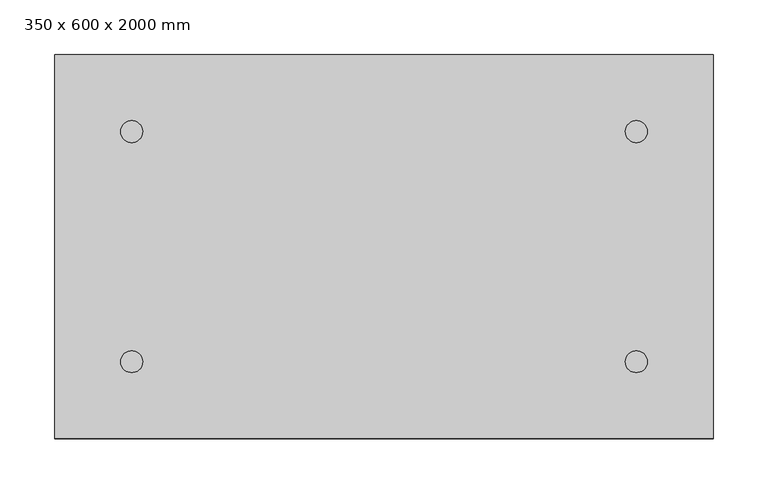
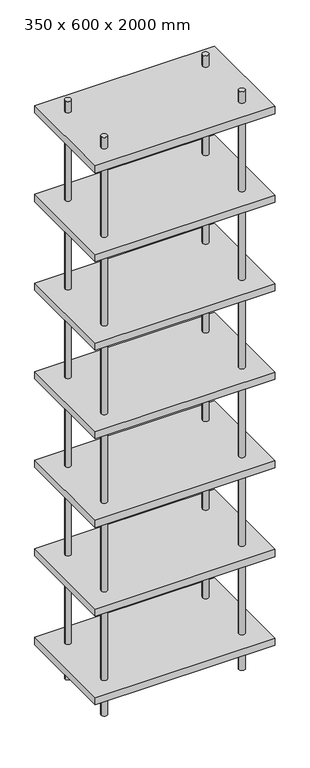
"""IFC4 building model written with IfcOpenShell, lengths in millimetres: furniture geometry, Biblioteca con Montantes : 350 x 600 x 2000 mm."""

from ifc_helpers import new_model, si_unit, point, frame, frame_2d, origin, origin_with_axes, place, context, project, spatial, polyline, circle_curve, trimmed, segment, composite_curve, outline, extrude, source, transform, mapped, element, save


def furniture_350_x_600_x_2000_mm_2159984b(model_context):
    return source(origin(), model_context, "Body", "SweptSolid", [
        extrude(outline(polyline([(-300.0, 0.0), (-300.0, 350.0), (300.0, 350.0), (300.0, 0.0), (-300.0, 0.0)])), frame((0.0, 0.0, 1662.5), z_axis=(0.0, 0.0, 1.0), x_axis=(1.0, 0.0, 0.0)), (0.0, 0.0, 1.0), 25.0),
        extrude(outline(polyline([(-300.0, 0.0), (-300.0, 350.0), (300.0, 350.0), (300.0, 0.0), (-300.0, 0.0)])), frame((0.0, 0.0, 1350.0), z_axis=(0.0, 0.0, 1.0), x_axis=(1.0, 0.0, 0.0)), (0.0, 0.0, 1.0), 25.0),
        extrude(outline(composite_curve([segment(trimmed(circle_curve(frame_2d((230.0, 70.0)), 10.0), [point((220.0, 70.0))], [point((240.0, 70.0))], False, "CARTESIAN"), True, "CONTINUOUS"), segment(trimmed(circle_curve(frame_2d((230.0, 70.0)), 10.0), [point((240.0, 70.0))], [point((220.0, 70.0))], False, "CARTESIAN"), True, "CONTINUOUS")], self_intersect=False)), origin_with_axes(), (0.0, 0.0, 1.0), 2040.0),
        extrude(outline(composite_curve([segment(trimmed(circle_curve(frame_2d((230.0, 280.0)), 10.0), [point((220.0, 280.0))], [point((240.0, 280.0))], False, "CARTESIAN"), True, "CONTINUOUS"), segment(trimmed(circle_curve(frame_2d((230.0, 280.0)), 10.0), [point((240.0, 280.0))], [point((220.0, 280.0))], False, "CARTESIAN"), True, "CONTINUOUS")], self_intersect=False)), origin_with_axes(), (0.0, 0.0, 1.0), 2040.0),
        extrude(outline(composite_curve([segment(trimmed(circle_curve(frame_2d((-230.0, 70.0)), 10.0), [point((-240.0, 70.0))], [point((-220.0, 70.0))], False, "CARTESIAN"), True, "CONTINUOUS"), segment(trimmed(circle_curve(frame_2d((-230.0, 70.0)), 10.0), [point((-220.0, 70.0))], [point((-240.0, 70.0))], False, "CARTESIAN"), True, "CONTINUOUS")], self_intersect=False)), origin_with_axes(), (0.0, 0.0, 1.0), 2040.0),
        extrude(outline(composite_curve([segment(trimmed(circle_curve(frame_2d((-230.0, 280.0)), 10.0), [point((-240.0, 280.0))], [point((-220.0, 280.0))], False, "CARTESIAN"), True, "CONTINUOUS"), segment(trimmed(circle_curve(frame_2d((-230.0, 280.0)), 10.0), [point((-220.0, 280.0))], [point((-240.0, 280.0))], False, "CARTESIAN"), True, "CONTINUOUS")], self_intersect=False)), origin_with_axes(), (0.0, 0.0, 1.0), 2040.0),
        extrude(outline(polyline([(-300.0, 0.0), (-300.0, 350.0), (300.0, 350.0), (300.0, 0.0), (-300.0, 0.0)])), frame((0.0, 0.0, 1037.5), z_axis=(0.0, 0.0, 1.0), x_axis=(1.0, 0.0, 0.0)), (0.0, 0.0, 1.0), 25.0),
        extrude(outline(polyline([(-300.0, 0.0), (-300.0, 350.0), (300.0, 350.0), (300.0, 0.0), (-300.0, 0.0)])), frame((0.0, 0.0, 725.0), z_axis=(0.0, 0.0, 1.0), x_axis=(1.0, 0.0, 0.0)), (0.0, 0.0, 1.0), 25.0),
        extrude(outline(polyline([(-300.0, 0.0), (-300.0, 350.0), (300.0, 350.0), (300.0, 0.0), (-300.0, 0.0)])), frame((0.0, 0.0, 412.5), z_axis=(0.0, 0.0, 1.0), x_axis=(1.0, 0.0, 0.0)), (0.0, 0.0, 1.0), 25.0),
        extrude(outline(polyline([(-300.0, 0.0), (-300.0, 350.0), (300.0, 350.0), (300.0, 0.0), (-300.0, 0.0)])), frame((0.0, 0.0, 1975.0), z_axis=(0.0, 0.0, 1.0), x_axis=(1.0, 0.0, 0.0)), (0.0, 0.0, 1.0), 25.0),
        extrude(outline(polyline([(-300.0, 0.0), (-300.0, 350.0), (300.0, 350.0), (300.0, 0.0), (-300.0, 0.0)])), frame((0.0, 0.0, 100.0), z_axis=(0.0, 0.0, 1.0), x_axis=(1.0, 0.0, 0.0)), (0.0, 0.0, 1.0), 25.0),
    ])


if __name__ == "__main__":
    model = new_model("IFC4")
    model_context = context("Model", 3, world=origin())
    ifc_project = project(units=[si_unit("LENGTHUNIT", "METRE", prefix="MILLI")], contexts=[model_context])
    site = spatial("IfcSite", under=ifc_project)
    building = spatial("IfcBuilding", under=site)
    placement = place(None, origin())
    furniture_350_x_600_x_2000_mm_shape = furniture_350_x_600_x_2000_mm_2159984b(model_context)
    element("IfcFurniture", 1, ObjectType="Biblioteca con Montantes : 350 x 600 x 2000 mm", at=placement, inside=building, context=model_context, shape_type="MappedRepresentation", body=[
        mapped(furniture_350_x_600_x_2000_mm_shape, transform((0.0, 0.0, 0.0), x_axis=(1.0, 0.0, 0.0), y_axis=(0.0, 1.0, 0.0), z_axis=(0.0, 0.0, 1.0))),
    ])
    save(model, "model.ifc")
